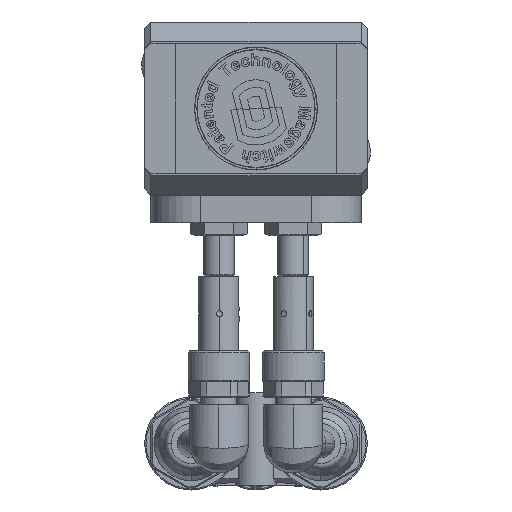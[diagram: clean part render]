
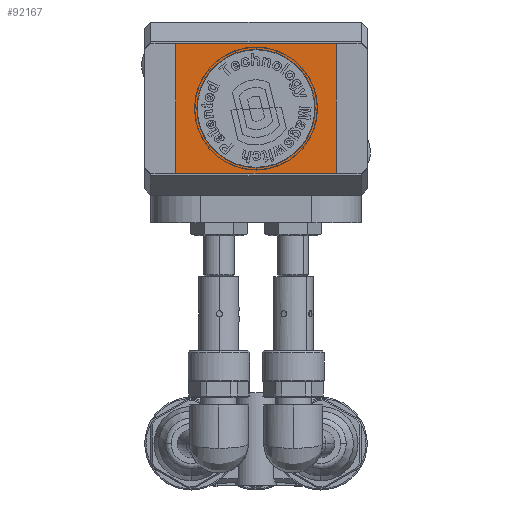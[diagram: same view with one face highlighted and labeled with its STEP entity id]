
A CAD part, front view. The second image highlights one B-rep face of the part: STEP entity #92167.
In plain terms, the highlighted planar face has unit normal (0, -1, 0).
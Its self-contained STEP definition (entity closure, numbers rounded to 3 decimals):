
#4666 = DIRECTION ( 'NONE',  ( -1., 0., 0. ) ) ;
#4794 = CIRCLE ( 'NONE', #102526, 9.5 ) ;
#5102 = EDGE_LOOP ( 'NONE', ( #28220, #32497, #69773, #48876 ) ) ;
#13297 = EDGE_CURVE ( 'NONE', #85987, #32208, #90581, .T. ) ;
#16003 = CARTESIAN_POINT ( 'NONE',  ( 0., 0., 9.5 ) ) ;
#16440 = AXIS2_PLACEMENT_3D ( 'NONE', #37154, #44284, #60740 ) ;
#16696 = CIRCLE ( 'NONE', #55136, 9.5 ) ;
#18823 = CARTESIAN_POINT ( 'NONE',  ( 13., 0., -10.5 ) ) ;
#18955 = CARTESIAN_POINT ( 'NONE',  ( 13., 0., 0. ) ) ;
#19582 = VECTOR ( 'NONE', #86201, 1000. ) ;
#24104 = DIRECTION ( 'NONE',  ( 0., 0., -1. ) ) ;
#25121 = EDGE_CURVE ( 'NONE', #82923, #49999, #16696, .T. ) ;
#27732 = LINE ( 'NONE', #18955, #19582 ) ;
#28220 = ORIENTED_EDGE ( 'NONE', *, *, #106031, .F. ) ;
#32208 = VERTEX_POINT ( 'NONE', #56652 ) ;
#32298 = VECTOR ( 'NONE', #58924, 1000. ) ;
#32497 = ORIENTED_EDGE ( 'NONE', *, *, #73665, .F. ) ;
#36837 = CARTESIAN_POINT ( 'NONE',  ( -13., 0., 10.5 ) ) ;
#36963 = EDGE_CURVE ( 'NONE', #49999, #82923, #4794, .T. ) ;
#37154 = CARTESIAN_POINT ( 'NONE',  ( 0., 0., 0. ) ) ;
#40868 = CARTESIAN_POINT ( 'NONE',  ( -13., 0., -10.5 ) ) ;
#44143 = ORIENTED_EDGE ( 'NONE', *, *, #36963, .F. ) ;
#44284 = DIRECTION ( 'NONE',  ( 0., 1., 0. ) ) ;
#44807 = FACE_OUTER_BOUND ( 'NONE', #5102, .T. ) ;
#48567 = VECTOR ( 'NONE', #24104, 1000. ) ;
#48596 = ORIENTED_EDGE ( 'NONE', *, *, #25121, .F. ) ;
#48876 = ORIENTED_EDGE ( 'NONE', *, *, #97794, .T. ) ;
#49302 = VECTOR ( 'NONE', #4666, 1000. ) ;
#49999 = VERTEX_POINT ( 'NONE', #95600 ) ;
#51001 = DIRECTION ( 'NONE',  ( 0., -1., 0. ) ) ;
#55136 = AXIS2_PLACEMENT_3D ( 'NONE', #67979, #51001, #78302 ) ;
#56652 = CARTESIAN_POINT ( 'NONE',  ( 13., 0., 10.5 ) ) ;
#58924 = DIRECTION ( 'NONE',  ( 1., 0., 0. ) ) ;
#60740 = DIRECTION ( 'NONE',  ( 0., 0., 1. ) ) ;
#65194 = CARTESIAN_POINT ( 'NONE',  ( -13., 0., 0. ) ) ;
#67337 = EDGE_LOOP ( 'NONE', ( #44143, #48596 ) ) ;
#67979 = CARTESIAN_POINT ( 'NONE',  ( 0., 0., 0. ) ) ;
#69773 = ORIENTED_EDGE ( 'NONE', *, *, #13297, .F. ) ;
#69836 = CARTESIAN_POINT ( 'NONE',  ( -18., 0., -10.5 ) ) ;
#70889 = LINE ( 'NONE', #69836, #49302 ) ;
#73665 = EDGE_CURVE ( 'NONE', #32208, #77483, #27732, .T. ) ;
#75107 = DIRECTION ( 'NONE',  ( 0., -1., 0. ) ) ;
#77483 = VERTEX_POINT ( 'NONE', #18823 ) ;
#78302 = DIRECTION ( 'NONE',  ( 0., 0., -1. ) ) ;
#82923 = VERTEX_POINT ( 'NONE', #16003 ) ;
#85816 = PLANE ( 'NONE',  #16440 ) ;
#85987 = VERTEX_POINT ( 'NONE', #36837 ) ;
#86201 = DIRECTION ( 'NONE',  ( 0., 0., -1. ) ) ;
#90581 = LINE ( 'NONE', #100336, #32298 ) ;
#90648 = VERTEX_POINT ( 'NONE', #40868 ) ;
#90788 = LINE ( 'NONE', #65194, #48567 ) ;
#91419 = CARTESIAN_POINT ( 'NONE',  ( 0., 0., 0. ) ) ;
#92167 = ADVANCED_FACE ( 'NONE', ( #102120, #44807 ), #85816, .F. ) ;
#95600 = CARTESIAN_POINT ( 'NONE',  ( 0., 0., -9.5 ) ) ;
#97794 = EDGE_CURVE ( 'NONE', #85987, #90648, #90788, .T. ) ;
#100336 = CARTESIAN_POINT ( 'NONE',  ( -18., 0., 10.5 ) ) ;
#102120 = FACE_BOUND ( 'NONE', #67337, .T. ) ;
#102526 = AXIS2_PLACEMENT_3D ( 'NONE', #91419, #75107, #106730 ) ;
#106031 = EDGE_CURVE ( 'NONE', #77483, #90648, #70889, .T. ) ;
#106730 = DIRECTION ( 'NONE',  ( 0., 0., -1. ) ) ;
